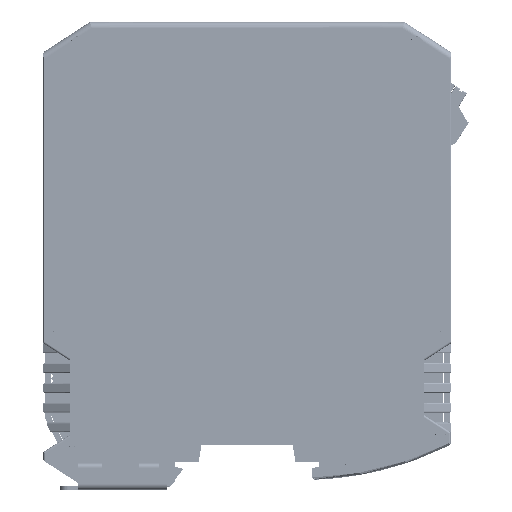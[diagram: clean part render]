
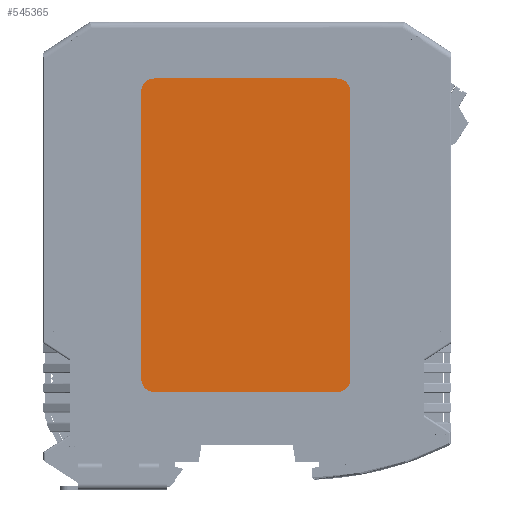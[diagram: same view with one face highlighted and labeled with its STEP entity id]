
A CAD part, top view. The second image highlights one B-rep face of the part: STEP entity #545365.
In plain terms, the highlighted planar face has unit normal (0, 0, 1).
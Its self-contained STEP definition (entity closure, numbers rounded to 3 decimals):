
#2852 = ORIENTED_EDGE ( 'NONE', *, *, #300546, .T. ) ;
#20899 = VECTOR ( 'NONE', #264518, 1000. ) ;
#47416 = EDGE_CURVE ( 'NONE', #394147, #454062, #159971, .T. ) ;
#55496 = AXIS2_PLACEMENT_3D ( 'NONE', #362745, #578744, #305158 ) ;
#57755 = CARTESIAN_POINT ( 'NONE',  ( 22.225, 34.925, 0.051 ) ) ;
#68342 = DIRECTION ( 'NONE',  ( 1., 0., 0. ) ) ;
#72464 = CARTESIAN_POINT ( 'NONE',  ( 22.225, -38.1, 0.051 ) ) ;
#72621 = ORIENTED_EDGE ( 'NONE', *, *, #47416, .T. ) ;
#77907 = CARTESIAN_POINT ( 'NONE',  ( 25.4, 34.925, 0.051 ) ) ;
#99141 = CARTESIAN_POINT ( 'NONE',  ( 22.225, 38.1, 0.051 ) ) ;
#114555 = AXIS2_PLACEMENT_3D ( 'NONE', #195623, #354131, #138126 ) ;
#131193 = CARTESIAN_POINT ( 'NONE',  ( 22.225, 38.1, 0.051 ) ) ;
#138126 = DIRECTION ( 'NONE',  ( -1., 0., 0. ) ) ;
#138999 = EDGE_CURVE ( 'NONE', #689890, #464749, #534775, .T. ) ;
#144084 = ORIENTED_EDGE ( 'NONE', *, *, #375379, .T. ) ;
#149142 = DIRECTION ( 'NONE',  ( 0., 0., 1. ) ) ;
#159971 = CIRCLE ( 'NONE', #286130, 3.175 ) ;
#176266 = DIRECTION ( 'NONE',  ( 0., 0., 1. ) ) ;
#190163 = CARTESIAN_POINT ( 'NONE',  ( -25.4, 34.925, 0.051 ) ) ;
#190326 = ORIENTED_EDGE ( 'NONE', *, *, #243639, .T. ) ;
#190775 = CARTESIAN_POINT ( 'NONE',  ( -25.4, -34.925, 0.051 ) ) ;
#195623 = CARTESIAN_POINT ( 'NONE',  ( -22.225, -34.925, 0.051 ) ) ;
#237323 = CARTESIAN_POINT ( 'NONE',  ( -22.225, -38.1, 0.051 ) ) ;
#240398 = FACE_OUTER_BOUND ( 'NONE', #614339, .T. ) ;
#241655 = LINE ( 'NONE', #346259, #472649 ) ;
#243639 = EDGE_CURVE ( 'NONE', #658931, #689890, #661580, .T. ) ;
#247559 = LINE ( 'NONE', #190163, #477151 ) ;
#249129 = EDGE_CURVE ( 'NONE', #522564, #394147, #287821, .T. ) ;
#264518 = DIRECTION ( 'NONE',  ( -1., 0., 0. ) ) ;
#280682 = VECTOR ( 'NONE', #676770, 1000. ) ;
#281175 = CARTESIAN_POINT ( 'NONE',  ( 25.4, -34.925, 0.051 ) ) ;
#286130 = AXIS2_PLACEMENT_3D ( 'NONE', #422723, #149142, #314718 ) ;
#287821 = LINE ( 'NONE', #237323, #280682 ) ;
#300546 = EDGE_CURVE ( 'NONE', #380323, #595112, #247559, .T. ) ;
#305158 = DIRECTION ( 'NONE',  ( 1., 0., 0. ) ) ;
#314718 = DIRECTION ( 'NONE',  ( 0., -1., 0. ) ) ;
#316775 = AXIS2_PLACEMENT_3D ( 'NONE', #57755, #176266, #68342 ) ;
#320468 = ORIENTED_EDGE ( 'NONE', *, *, #249129, .T. ) ;
#338453 = CIRCLE ( 'NONE', #614340, 3.175 ) ;
#346259 = CARTESIAN_POINT ( 'NONE',  ( 25.4, -34.925, 0.051 ) ) ;
#354131 = DIRECTION ( 'NONE',  ( 0., 0., 1. ) ) ;
#359220 = PLANE ( 'NONE',  #55496 ) ;
#362745 = CARTESIAN_POINT ( 'NONE',  ( 0., 0., 0.051 ) ) ;
#375379 = EDGE_CURVE ( 'NONE', #595112, #522564, #424972, .T. ) ;
#380323 = VERTEX_POINT ( 'NONE', #405282 ) ;
#394147 = VERTEX_POINT ( 'NONE', #72464 ) ;
#397996 = ORIENTED_EDGE ( 'NONE', *, *, #574031, .T. ) ;
#405282 = CARTESIAN_POINT ( 'NONE',  ( -25.4, 34.925, 0.051 ) ) ;
#421277 = ORIENTED_EDGE ( 'NONE', *, *, #503309, .T. ) ;
#422723 = CARTESIAN_POINT ( 'NONE',  ( 22.225, -34.925, 0.051 ) ) ;
#424972 = CIRCLE ( 'NONE', #114555, 3.175 ) ;
#436158 = ORIENTED_EDGE ( 'NONE', *, *, #138999, .T. ) ;
#454062 = VERTEX_POINT ( 'NONE', #281175 ) ;
#464749 = VERTEX_POINT ( 'NONE', #680486 ) ;
#472649 = VECTOR ( 'NONE', #562308, 1000. ) ;
#477151 = VECTOR ( 'NONE', #636469, 1000. ) ;
#478695 = CARTESIAN_POINT ( 'NONE',  ( -22.225, -38.1, 0.051 ) ) ;
#503309 = EDGE_CURVE ( 'NONE', #464749, #380323, #338453, .T. ) ;
#522564 = VERTEX_POINT ( 'NONE', #478695 ) ;
#522602 = CARTESIAN_POINT ( 'NONE',  ( -22.225, 34.925, 0.051 ) ) ;
#526175 = DIRECTION ( 'NONE',  ( 0., 0., 1. ) ) ;
#534775 = LINE ( 'NONE', #99141, #20899 ) ;
#545365 = ADVANCED_FACE ( 'NONE', ( #240398 ), #359220, .T. ) ;
#562308 = DIRECTION ( 'NONE',  ( 0., 1., 0. ) ) ;
#574031 = EDGE_CURVE ( 'NONE', #454062, #658931, #241655, .T. ) ;
#578744 = DIRECTION ( 'NONE',  ( 0., 0., 1. ) ) ;
#595112 = VERTEX_POINT ( 'NONE', #190775 ) ;
#614339 = EDGE_LOOP ( 'NONE', ( #2852, #144084, #320468, #72621, #397996, #190326, #436158, #421277 ) ) ;
#614340 = AXIS2_PLACEMENT_3D ( 'NONE', #522602, #526175, #695435 ) ;
#636469 = DIRECTION ( 'NONE',  ( 0., -1., 0. ) ) ;
#658931 = VERTEX_POINT ( 'NONE', #77907 ) ;
#661580 = CIRCLE ( 'NONE', #316775, 3.175 ) ;
#676770 = DIRECTION ( 'NONE',  ( 1., 0., 0. ) ) ;
#680486 = CARTESIAN_POINT ( 'NONE',  ( -22.225, 38.1, 0.051 ) ) ;
#689890 = VERTEX_POINT ( 'NONE', #131193 ) ;
#695435 = DIRECTION ( 'NONE',  ( 0., 1., 0. ) ) ;
